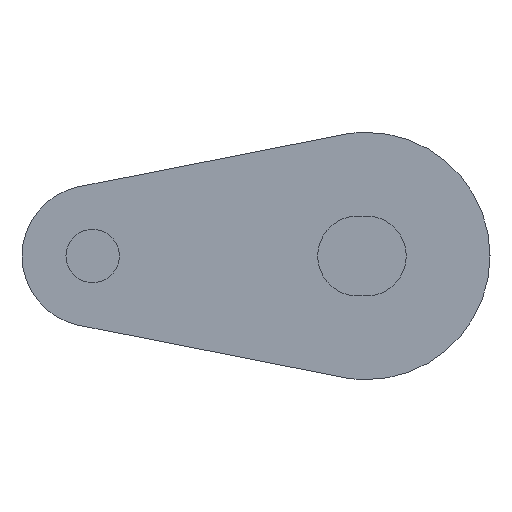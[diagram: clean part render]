
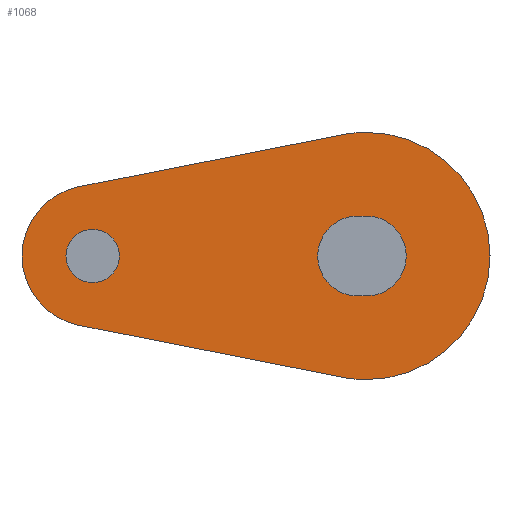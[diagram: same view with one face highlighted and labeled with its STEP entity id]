
A CAD part, left-side view. The second image highlights one B-rep face of the part: STEP entity #1068.
In plain terms, the highlighted planar face has unit normal (-1, 0, 0).
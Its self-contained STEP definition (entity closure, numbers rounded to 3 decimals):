
#1 = ORIENTED_EDGE ( 'NONE', *, *, #888, .F. ) ;
#5 = ORIENTED_EDGE ( 'NONE', *, *, #885, .F. ) ;
#30 = ORIENTED_EDGE ( 'NONE', *, *, #994, .T. ) ;
#51 = ORIENTED_EDGE ( 'NONE', *, *, #921, .T. ) ;
#76 = EDGE_LOOP ( 'NONE', ( #51, #204, #101, #135 ) ) ;
#101 = ORIENTED_EDGE ( 'NONE', *, *, #930, .T. ) ;
#107 = ORIENTED_EDGE ( 'NONE', *, *, #902, .T. ) ;
#108 = ORIENTED_EDGE ( 'NONE', *, *, #1012, .F. ) ;
#116 = ORIENTED_EDGE ( 'NONE', *, *, #956, .F. ) ;
#118 = ORIENTED_EDGE ( 'NONE', *, *, #913, .F. ) ;
#128 = ORIENTED_EDGE ( 'NONE', *, *, #999, .F. ) ;
#135 = ORIENTED_EDGE ( 'NONE', *, *, #892, .T. ) ;
#157 = EDGE_LOOP ( 'NONE', ( #1, #108, #128, #118, #5, #116 ) ) ;
#158 = EDGE_LOOP ( 'NONE', ( #30, #107 ) ) ;
#204 = ORIENTED_EDGE ( 'NONE', *, *, #974, .T. ) ;
#224 = CIRCLE ( 'NONE', #955, 7. ) ;
#226 = CIRCLE ( 'NONE', #925, 4. ) ;
#227 = LINE ( 'NONE', #488, #228 ) ;
#228 = VECTOR ( 'NONE', #464, 1000. ) ;
#235 = CIRCLE ( 'NONE', #978, 1.51 ) ;
#245 = CIRCLE ( 'NONE', #1011, 7. ) ;
#252 = CIRCLE ( 'NONE', #1006, 2.26 ) ;
#255 = CIRCLE ( 'NONE', #898, 2.26 ) ;
#263 = LINE ( 'NONE', #728, #268 ) ;
#268 = VECTOR ( 'NONE', #758, 1000. ) ;
#277 = LINE ( 'NONE', #624, #279 ) ;
#279 = VECTOR ( 'NONE', #610, 1000. ) ;
#298 = CIRCLE ( 'NONE', #870, 1.51 ) ;
#303 = CIRCLE ( 'NONE', #1002, 7. ) ;
#310 = LINE ( 'NONE', #597, #311 ) ;
#311 = VECTOR ( 'NONE', #589, 1000. ) ;
#385 = FACE_BOUND ( 'NONE', #76, .T. ) ;
#388 = FACE_BOUND ( 'NONE', #158, .T. ) ;
#390 = FACE_OUTER_BOUND ( 'NONE', #157, .T. ) ;
#434 = CARTESIAN_POINT ( 'NONE',  ( -103.5, 0., 0. ) ) ;
#446 = CARTESIAN_POINT ( 'NONE',  ( -103.5, 15.5, 0. ) ) ;
#450 = DIRECTION ( 'NONE',  ( 0., 0., -1. ) ) ;
#451 = CARTESIAN_POINT ( 'NONE',  ( -103.5, 0., 0. ) ) ;
#459 = DIRECTION ( 'NONE',  ( 1., 0., 0. ) ) ;
#460 = DIRECTION ( 'NONE',  ( 0., 0., -1. ) ) ;
#462 = VERTEX_POINT ( 'NONE', #761 ) ;
#464 = DIRECTION ( 'NONE',  ( 0., 1., 0. ) ) ;
#467 = CARTESIAN_POINT ( 'NONE',  ( -103.5, 0.5, 0. ) ) ;
#481 = DIRECTION ( 'NONE',  ( 0., 0., -1. ) ) ;
#482 = DIRECTION ( 'NONE',  ( 1., 0., 0. ) ) ;
#483 = CARTESIAN_POINT ( 'NONE',  ( -103.5, 15.5, 0. ) ) ;
#484 = DIRECTION ( 'NONE',  ( 0., 0., -1. ) ) ;
#485 = DIRECTION ( 'NONE',  ( 1., 0., 0. ) ) ;
#486 = CARTESIAN_POINT ( 'NONE',  ( -103.5, 0., 0. ) ) ;
#488 = CARTESIAN_POINT ( 'NONE',  ( -103.5, 0.5, -2.26 ) ) ;
#491 = DIRECTION ( 'NONE',  ( 1., 0., 0. ) ) ;
#512 = CARTESIAN_POINT ( 'NONE',  ( -103.5, 0., -2.26 ) ) ;
#514 = CARTESIAN_POINT ( 'NONE',  ( -103.5, 0., 7. ) ) ;
#521 = CARTESIAN_POINT ( 'NONE',  ( -103.5, 0.5, -2.26 ) ) ;
#522 = CARTESIAN_POINT ( 'NONE',  ( -103.5, 1.355, -6.868 ) ) ;
#525 = DIRECTION ( 'NONE',  ( 1., 0., 0. ) ) ;
#526 = DIRECTION ( 'NONE',  ( 0., 0., -1. ) ) ;
#532 = CARTESIAN_POINT ( 'NONE',  ( -103.5, 0., -7. ) ) ;
#533 = VERTEX_POINT ( 'NONE', #803 ) ;
#544 = VERTEX_POINT ( 'NONE', #744 ) ;
#566 = DIRECTION ( 'NONE',  ( 1., 0., 0. ) ) ;
#567 = DIRECTION ( 'NONE',  ( 0., 0., -1. ) ) ;
#572 = DIRECTION ( 'NONE',  ( 1., 0., 0. ) ) ;
#578 = DIRECTION ( 'NONE',  ( 0., 0., -1. ) ) ;
#580 = CARTESIAN_POINT ( 'NONE',  ( -103.5, 0., 0. ) ) ;
#589 = DIRECTION ( 'NONE',  ( 0., 0.981, 0.194 ) ) ;
#597 = CARTESIAN_POINT ( 'NONE',  ( -103.5, 1.355, -6.868 ) ) ;
#610 = DIRECTION ( 'NONE',  ( 0., -1., 0. ) ) ;
#622 = CARTESIAN_POINT ( 'NONE',  ( -103.5, 15.5, 0. ) ) ;
#624 = CARTESIAN_POINT ( 'NONE',  ( -103.5, 0.5, 2.26 ) ) ;
#693 = PLANE ( 'NONE',  #866 ) ;
#698 = DIRECTION ( 'NONE',  ( -1., 0., 0. ) ) ;
#700 = DIRECTION ( 'NONE',  ( 0., 0., -1. ) ) ;
#715 = CARTESIAN_POINT ( 'NONE',  ( -103.5, 15.5, 0. ) ) ;
#728 = CARTESIAN_POINT ( 'NONE',  ( -103.5, 16.274, 3.924 ) ) ;
#743 = CARTESIAN_POINT ( 'NONE',  ( -103.5, 0.5, 2.26 ) ) ;
#744 = CARTESIAN_POINT ( 'NONE',  ( -103.5, 15.5, 1.51 ) ) ;
#758 = DIRECTION ( 'NONE',  ( 0., -0.981, 0.194 ) ) ;
#761 = CARTESIAN_POINT ( 'NONE',  ( -103.5, 0., 2.26 ) ) ;
#763 = VERTEX_POINT ( 'NONE', #800 ) ;
#773 = VERTEX_POINT ( 'NONE', #532 ) ;
#774 = VERTEX_POINT ( 'NONE', #840 ) ;
#788 = CARTESIAN_POINT ( 'NONE',  ( -103.5, 16.274, -3.924 ) ) ;
#793 = VERTEX_POINT ( 'NONE', #743 ) ;
#795 = VERTEX_POINT ( 'NONE', #788 ) ;
#800 = CARTESIAN_POINT ( 'NONE',  ( -103.5, 16.274, 3.924 ) ) ;
#803 = CARTESIAN_POINT ( 'NONE',  ( -103.5, 15.5, -1.51 ) ) ;
#807 = DIRECTION ( 'NONE',  ( 1., 0., 0. ) ) ;
#819 = DIRECTION ( 'NONE',  ( 0., 0., -1. ) ) ;
#826 = VERTEX_POINT ( 'NONE', #522 ) ;
#836 = VERTEX_POINT ( 'NONE', #521 ) ;
#840 = CARTESIAN_POINT ( 'NONE',  ( -103.5, 1.355, 6.868 ) ) ;
#843 = VERTEX_POINT ( 'NONE', #512 ) ;
#854 = VERTEX_POINT ( 'NONE', #514 ) ;
#866 = AXIS2_PLACEMENT_3D ( 'NONE', #715, #698, #700 ) ;
#870 = AXIS2_PLACEMENT_3D ( 'NONE', #622, #566, #567 ) ;
#885 = EDGE_CURVE ( 'NONE', #774, #854, #224, .T. ) ;
#888 = EDGE_CURVE ( 'NONE', #795, #763, #226, .T. ) ;
#892 = EDGE_CURVE ( 'NONE', #843, #836, #227, .T. ) ;
#898 = AXIS2_PLACEMENT_3D ( 'NONE', #451, #807, #819 ) ;
#902 = EDGE_CURVE ( 'NONE', #544, #533, #235, .T. ) ;
#913 = EDGE_CURVE ( 'NONE', #854, #773, #245, .T. ) ;
#921 = EDGE_CURVE ( 'NONE', #836, #793, #252, .T. ) ;
#925 = AXIS2_PLACEMENT_3D ( 'NONE', #483, #482, #481 ) ;
#930 = EDGE_CURVE ( 'NONE', #462, #843, #255, .T. ) ;
#955 = AXIS2_PLACEMENT_3D ( 'NONE', #486, #485, #484 ) ;
#956 = EDGE_CURVE ( 'NONE', #763, #774, #263, .T. ) ;
#974 = EDGE_CURVE ( 'NONE', #793, #462, #277, .T. ) ;
#978 = AXIS2_PLACEMENT_3D ( 'NONE', #446, #459, #460 ) ;
#994 = EDGE_CURVE ( 'NONE', #533, #544, #298, .T. ) ;
#999 = EDGE_CURVE ( 'NONE', #773, #826, #303, .T. ) ;
#1002 = AXIS2_PLACEMENT_3D ( 'NONE', #580, #572, #578 ) ;
#1006 = AXIS2_PLACEMENT_3D ( 'NONE', #467, #525, #526 ) ;
#1011 = AXIS2_PLACEMENT_3D ( 'NONE', #434, #491, #450 ) ;
#1012 = EDGE_CURVE ( 'NONE', #826, #795, #310, .T. ) ;
#1068 = ADVANCED_FACE ( 'NONE', ( #385, #388, #390 ), #693, .T. ) ;
